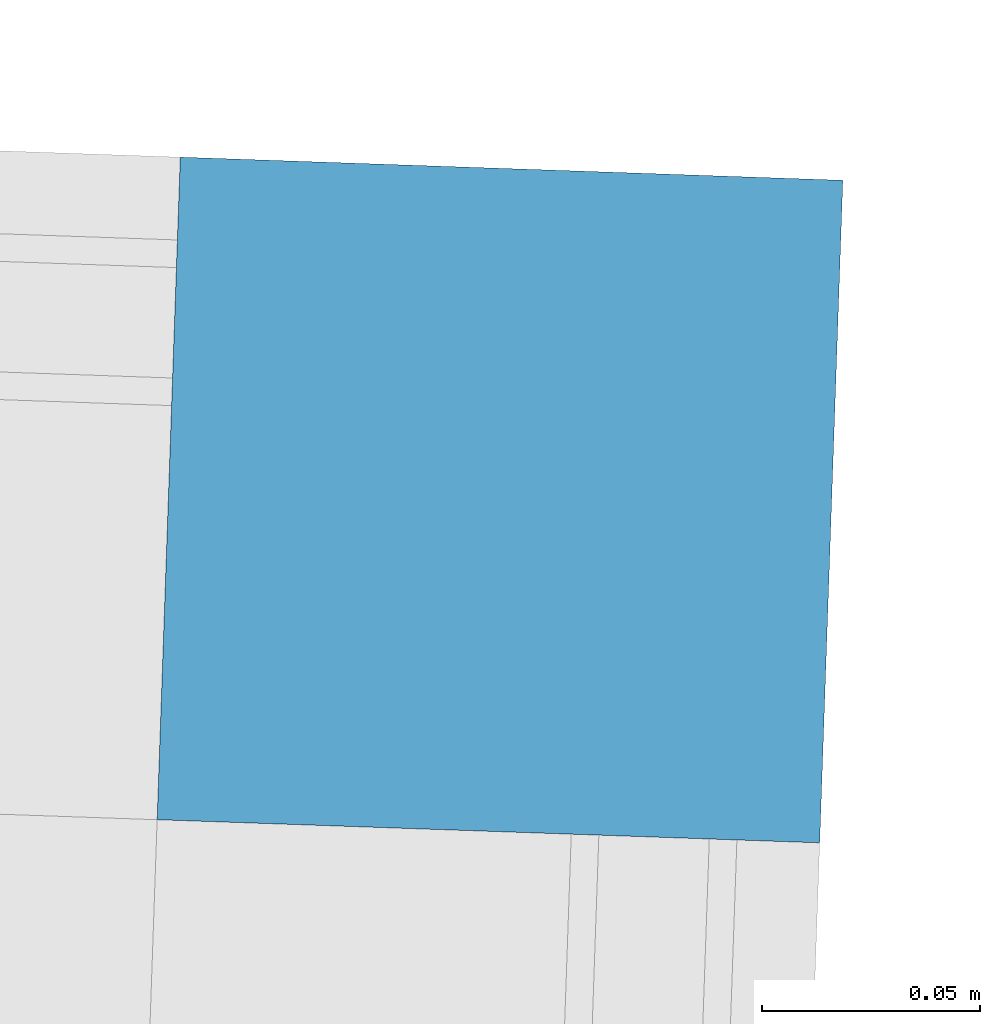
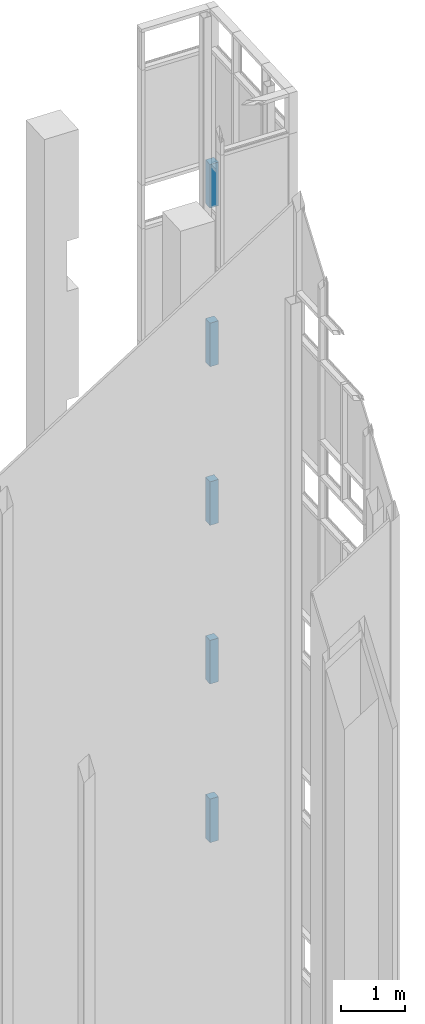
# One storey, part 21 of 44: 5 members, 1 element without a shape of its own.
"""IFC2X3 building model written with IfcOpenShell, lengths in feet."""

from ifc_helpers import new_model, entity, si_unit, converted_unit, derived_unit, direction, frame, origin, origin_2d_with_axis, place, context, subcontext, project, spatial, rectangle, extrude, material, type_object, element, aggregate, save


model = new_model("IFC2X3")

# Units and contexts
model_context = context("Model", 3, precision=0.0001, world=origin(), true_north=direction((0.999390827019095, 0.0348994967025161)))
body_context = subcontext(model_context, "Body", "Model", "MODEL_VIEW")
ifc_project = project(units=[converted_unit("LENGTHUNIT", "FOOT", entity("IfcRatioMeasure", 0.3048), si_unit("LENGTHUNIT", "METRE"), dimensions=[1, 0, 0, 0, 0, 0, 0]), converted_unit("AREAUNIT", "SQUARE FOOT", entity("IfcRatioMeasure", 0.09290304), si_unit("AREAUNIT", "SQUARE_METRE"), dimensions=[2, 0, 0, 0, 0, 0, 0]), converted_unit("VOLUMEUNIT", "CUBIC FOOT", entity("IfcRatioMeasure", 0.028316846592), si_unit("VOLUMEUNIT", "CUBIC_METRE"), dimensions=[3, 0, 0, 0, 0, 0, 0]), converted_unit("PLANEANGLEUNIT", "DEGREE", entity("IfcRatioMeasure", 0.0174532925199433), si_unit("PLANEANGLEUNIT", "RADIAN"), dimensions=[0, 0, 0, 0, 0, 0, 0]), si_unit("MASSUNIT", "GRAM", prefix="KILO"), si_unit("TIMEUNIT", "SECOND"), si_unit("FREQUENCYUNIT", "HERTZ"), si_unit("THERMODYNAMICTEMPERATUREUNIT", "DEGREE_CELSIUS"), derived_unit("THERMALTRANSMITTANCEUNIT", [(si_unit("MASSUNIT", "GRAM", prefix="KILO"), 1), (si_unit("THERMODYNAMICTEMPERATUREUNIT", "KELVIN"), -1), (si_unit("TIMEUNIT", "SECOND"), -3)]), derived_unit("VOLUMETRICFLOWRATEUNIT", [(si_unit("LENGTHUNIT", "METRE"), 3), (si_unit("TIMEUNIT", "SECOND"), -1)]), si_unit("ELECTRICCURRENTUNIT", "AMPERE"), si_unit("ELECTRICVOLTAGEUNIT", "VOLT"), si_unit("POWERUNIT", "WATT"), si_unit("FORCEUNIT", "NEWTON"), si_unit("ILLUMINANCEUNIT", "LUX"), si_unit("LUMINOUSFLUXUNIT", "LUMEN"), si_unit("LUMINOUSINTENSITYUNIT", "CANDELA"), derived_unit("USERDEFINED", [(si_unit("MASSUNIT", "GRAM", prefix="KILO"), -1), (si_unit("LENGTHUNIT", "METRE"), -2), (si_unit("TIMEUNIT", "SECOND"), 3), (si_unit("LUMINOUSFLUXUNIT", "LUMEN"), 1)]), derived_unit("LINEARVELOCITYUNIT", [(si_unit("LENGTHUNIT", "METRE"), 1), (si_unit("TIMEUNIT", "SECOND"), -1)]), si_unit("PRESSUREUNIT", "PASCAL"), derived_unit("USERDEFINED", [(si_unit("LENGTHUNIT", "METRE"), -2), (si_unit("MASSUNIT", "GRAM", prefix="KILO"), 1), (si_unit("TIMEUNIT", "SECOND"), -2)])], contexts=[model_context])

# Site, building, storey
site_placement = place(None, frame((892.518771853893, 322.38689265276, 0.00393700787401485), z_axis=(0.0, 0.0, 1.0), x_axis=(0.0348994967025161, 0.999390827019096, 0.0)))
site = spatial("IfcSite", under=ifc_project, at=site_placement, Name="Default", CompositionType="ELEMENT")
building_placement = place(site_placement, origin())
building = spatial("IfcBuilding", under=site, at=building_placement, CompositionType="ELEMENT")
storey_placement = place(building_placement, frame((0.0, 0.0, 544.75)))
storey = spatial("IfcBuildingStorey", under=building, at=storey_placement, Name="Exist Garage - Ground Level", CompositionType="ELEMENT", Elevation=544.75)

# Curtain wall, members
curtain_wall_type = type_object("IfcCurtainWallType", Name="Curtain Wall:(Existing) Curtainwall - Blank", PredefinedType="NOTDEFINED")
curtain_wall_placement = place(storey_placement, frame((0.0, 0.0, -544.75)))
curtain_wall = element("IfcCurtainWall", 1, at=curtain_wall_placement, inside=storey, type_object=curtain_wall_type, Name="Curtain Wall:(Existing) Curtainwall - Blank", ObjectType="Curtain Wall:(Existing) Curtainwall - Blank")
ifc_material = material(Name="Metal - Aluminum")
member_1_placement = place(curtain_wall_placement, frame((0.0, 0.0, 544.75)))
member_1 = element("IfcMember", 2, at=member_1_placement, material=ifc_material, Name="Curtain Wall:(Existing) Curtainwall - Blank", ObjectType="Curtain Wall:(Existing) Curtainwall - Blank", context=body_context, shape_type="SweptSolid", body=[
    extrude(rectangle(XDim=0.5, YDim=0.5, at=origin_2d_with_axis()), frame((114.177296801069, 231.013953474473, 22.25), z_axis=(0.0, 0.0, -1.0), x_axis=(-1.0, 0.0, 0.0)), (0.0, 0.0, 1.0), 2.75),
])
member_2_placement = place(curtain_wall_placement, frame((0.0, 0.0, 544.75)))
member_2 = element("IfcMember", 3, at=member_2_placement, material=ifc_material, Name="Curtain Wall:(Existing) Curtainwall - Blank", ObjectType="Curtain Wall:(Existing) Curtainwall - Blank", context=body_context, shape_type="SweptSolid", body=[
    extrude(rectangle(XDim=0.5, YDim=0.5, at=origin_2d_with_axis()), frame((114.177296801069, 231.013953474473, 32.25), z_axis=(0.0, 0.0, -1.0), x_axis=(-1.0, 0.0, 0.0)), (0.0, 0.0, 1.0), 2.75),
])
member_3_placement = place(curtain_wall_placement, frame((0.0, 0.0, 544.75)))
member_3 = element("IfcMember", 4, at=member_3_placement, material=ifc_material, Name="Curtain Wall:(Existing) Curtainwall - Blank", ObjectType="Curtain Wall:(Existing) Curtainwall - Blank", context=body_context, shape_type="SweptSolid", body=[
    extrude(rectangle(XDim=0.5, YDim=0.5, at=origin_2d_with_axis()), frame((114.177296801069, 231.013953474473, 42.25), z_axis=(0.0, 0.0, -1.0), x_axis=(-1.0, 0.0, 0.0)), (0.0, 0.0, 1.0), 2.75),
])
member_4_placement = place(curtain_wall_placement, frame((0.0, 0.0, 544.75)))
member_4 = element("IfcMember", 5, at=member_4_placement, material=ifc_material, Name="Curtain Wall:(Existing) Curtainwall - Blank", ObjectType="Curtain Wall:(Existing) Curtainwall - Blank", context=body_context, shape_type="SweptSolid", body=[
    extrude(rectangle(XDim=0.5, YDim=0.5, at=origin_2d_with_axis()), frame((114.177296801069, 231.013953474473, 52.25), z_axis=(0.0, 0.0, -1.0), x_axis=(-1.0, 0.0, 0.0)), (0.0, 0.0, 1.0), 2.75),
])
member_5_placement = place(curtain_wall_placement, frame((0.0, 0.0, 544.75)))
member_5 = element("IfcMember", 6, at=member_5_placement, material=ifc_material, Name="Curtain Wall:(Existing) Curtainwall - Blank", ObjectType="Curtain Wall:(Existing) Curtainwall - Blank", context=body_context, shape_type="SweptSolid", body=[
    extrude(rectangle(XDim=0.5, YDim=0.5, at=origin_2d_with_axis()), frame((114.177296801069, 231.013953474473, 62.25), z_axis=(0.0, 0.0, -1.0), x_axis=(-1.0, 0.0, 0.0)), (0.0, 0.0, 1.0), 2.75),
])
aggregate(curtain_wall, [member_1, member_2, member_3, member_4, member_5])

save(model, "model.ifc")
